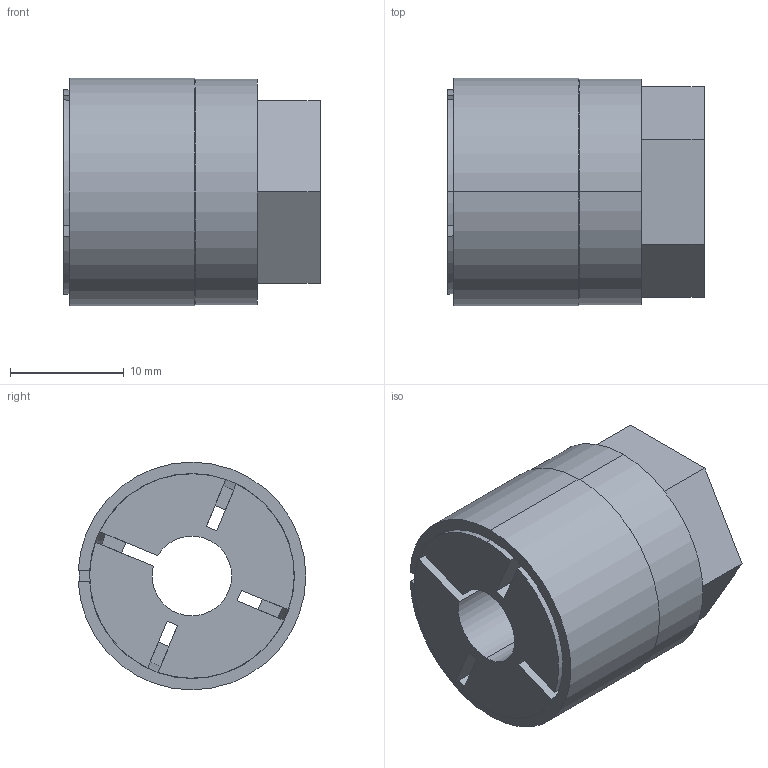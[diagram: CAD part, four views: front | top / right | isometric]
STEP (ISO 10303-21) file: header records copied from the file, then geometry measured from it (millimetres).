
FILE_DESCRIPTION (( 'STEP AP203' ), '1' );
FILE_NAME ('KBS 56 - 7 x 20.STEP', '2015-07-07T20:19:17', ( '' ), ( '' ), 'SwSTEP 2.0', 'SolidWorks 2010', '' );
FILE_SCHEMA (( 'CONFIG_CONTROL_DESIGN' ));
Length unit declared in the file: millimetre
Products named in the file (1): KBS 56 - 7 x 20
Bounding box: 22.5 x 19.99 x 20 mm (x, y, z)
Volume: 5235.8 mm3; surface area: 5345.1 mm2
Topology: 3 solids, 3 shells, 53 faces, 138 edges, 92 vertices
Faces by surface type: plane 30, cylinder 15, cone 8
Entity records: 1731 total; most frequent: CARTESIAN_POINT 320, DIRECTION 282, ORIENTED_EDGE 276, EDGE_CURVE 138, AXIS2_PLACEMENT_3D 100, VERTEX_POINT 92, VECTOR 82, LINE 82
